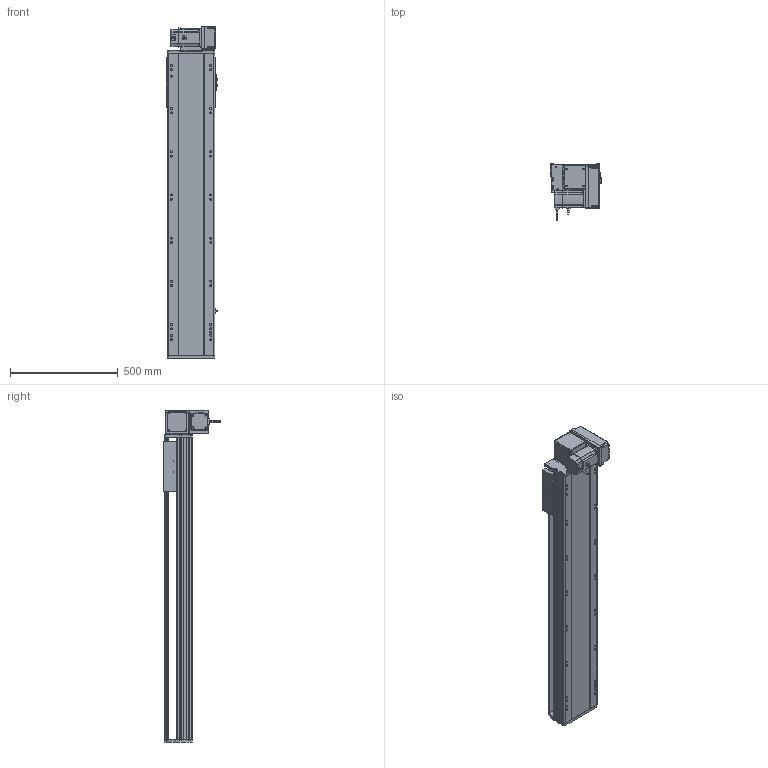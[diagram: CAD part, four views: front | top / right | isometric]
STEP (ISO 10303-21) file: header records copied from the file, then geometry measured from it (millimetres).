
FILE_DESCRIPTION (( 'STEP AP214' ), '1' );
FILE_NAME ('RTB22S-XX-1050-RM-M75-C4.STEP', '2025-12-12T07:47:16', ( '' ), ( '' ), 'SwSTEP 2.0', 'SolidWorks 2018', '' );
FILE_SCHEMA (( 'AUTOMOTIVE_DESIGN' ));
Length unit declared in the file: millimetre
Products named in the file (14): RTB22S-GY-007奻裔^RTB22S-XX-XX-RM-M75-C4; 750W萇儂^RTB22S-XX-XX-RM-M75-C4; RTB22S-GY-018P^RTB22S-RM-々湍釱蚾饜_RTB22S-XX-XX-RM-M75-C4; RTB22S-RM-々湍釱蚾饜^RTB22S-XX-XX-RM-M75-C4; RTB22S-XX-1050-RM-M75-C4; OMRON EE-SX672 传感器^RTB22S-XX-XX-RM-M75-C4; RTB22S-L-004賑釱^RTB22S-XX-XX-RM-M75-C4; RTB22S-GY-014--々湍釱^RTB22S-RM-々湍釱蚾饜_RTB22S-XX-XX-RM-M75-C4; RTB22S-GY-001耜裔^RTB22S-XX-XX-RM-M75-C4; RTB22S-GY-017P^RTB22S-RM-々湍釱蚾饜_RTB22S-XX-XX-RM-M75-C4; RTB22S-GY-005P^RTB22S-RM-々湍釱蚾饜_RTB22S-XX-XX-RM-M75-C4; RTH22-GY-013外置感应片^RTB22S-XX-XX-RM-M75-C4; RTB22S-L-011菁釱^RTB22S-XX-XX-RM-M75-C4; RTB22S-GY-008-M75--萇儂啣^RTB22S-RM-々湍釱蚾饜_RTB22S-XX-XX-RM-M75-C4
Assembly tree (16 placements, depth 3):
  RTB22S-XX-1050-RM-M75-C4
    RTB22S-L-011菁釱^RTB22S-XX-XX-RM-M75-C4
    RTB22S-GY-001耜裔^RTB22S-XX-XX-RM-M75-C4
    750W萇儂^RTB22S-XX-XX-RM-M75-C4
    RTB22S-GY-007奻裔^RTB22S-XX-XX-RM-M75-C4
    RTB22S-L-004賑釱^RTB22S-XX-XX-RM-M75-C4
    RTH22-GY-013外置感应片^RTB22S-XX-XX-RM-M75-C4
    OMRON EE-SX672 传感器^RTB22S-XX-XX-RM-M75-C4  x3
    RTB22S-RM-々湍釱蚾饜^RTB22S-XX-XX-RM-M75-C4
      RTB22S-GY-014--々湍釱^RTB22S-RM-々湍釱蚾饜_RTB22S-XX-XX-RM-M75-C4
      RTB22S-GY-017P^RTB22S-RM-々湍釱蚾饜_RTB22S-XX-XX-RM-M75-C4  x2
      RTB22S-GY-005P^RTB22S-RM-々湍釱蚾饜_RTB22S-XX-XX-RM-M75-C4
      RTB22S-GY-008-M75--萇儂啣^RTB22S-RM-々湍釱蚾饜_RTB22S-XX-XX-RM-M75-C4
      RTB22S-GY-018P^RTB22S-RM-々湍釱蚾饜_RTB22S-XX-XX-RM-M75-C4
Bounding box: 238.5 x 264.7 x 1537.5 mm (x, y, z)
Volume: 21867837.5 mm3; surface area: 2275758.1 mm2
Topology: 15 solids, 15 shells, 1983 faces, 5386 edges, 3452 vertices
Faces by surface type: plane 915, cylinder 622, bspline 296, cone 138, sphere 8, torus 4
Entity records: 52768 total; most frequent: CARTESIAN_POINT 15172, ORIENTED_EDGE 7560, DIRECTION 7274, EDGE_CURVE 3780, AXIS2_PLACEMENT_3D 2566, VERTEX_POINT 2456, VECTOR 2142, LINE 2142
